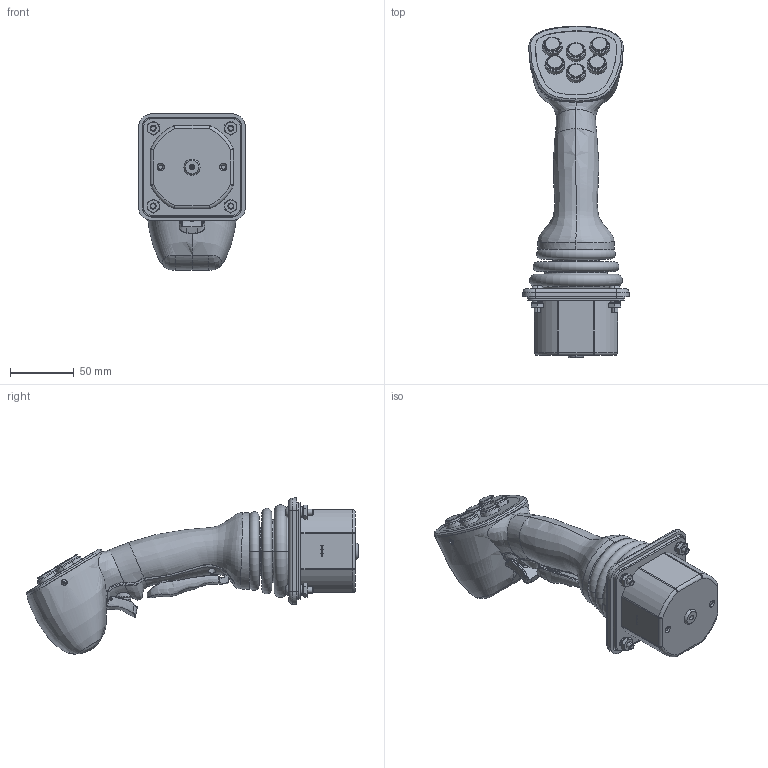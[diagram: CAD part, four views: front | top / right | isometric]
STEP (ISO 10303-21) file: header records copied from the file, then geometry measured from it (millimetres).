
FILE_DESCRIPTION (( 'STEP AP214' ), '1' );
FILE_NAME ('XDGTT2LNNCYYG_STP.STEP', '2018-05-22T22:44:40', ( '' ), ( '' ), 'SwSTEP 2.0', 'SolidWorks 2018', '' );
FILE_SCHEMA (( 'AUTOMOTIVE_DESIGN' ));
Length unit declared in the file: inch
Products named in the file (2): XDGTT2LNNCYYG_STP
Bounding box: 83.46 x 260.09 x 122.43 mm (x, y, z)
Volume: 309286.9 mm3; surface area: 215348.7 mm2
Topology: 50 solids, 50 shells, 2931 faces, 7693 edges, 4932 vertices
Faces by surface type: plane 1445, cylinder 633, cone 355, bspline 238, torus 227, sphere 33
Entity records: 181112 total; most frequent: CARTESIAN_POINT 71476, ORIENTED_EDGE 15328, DIRECTION 14004, EDGE_CURVE 7664, AXIS2_PLACEMENT_3D 5015, VERTEX_POINT 4930, VECTOR 3974, LINE 3974
